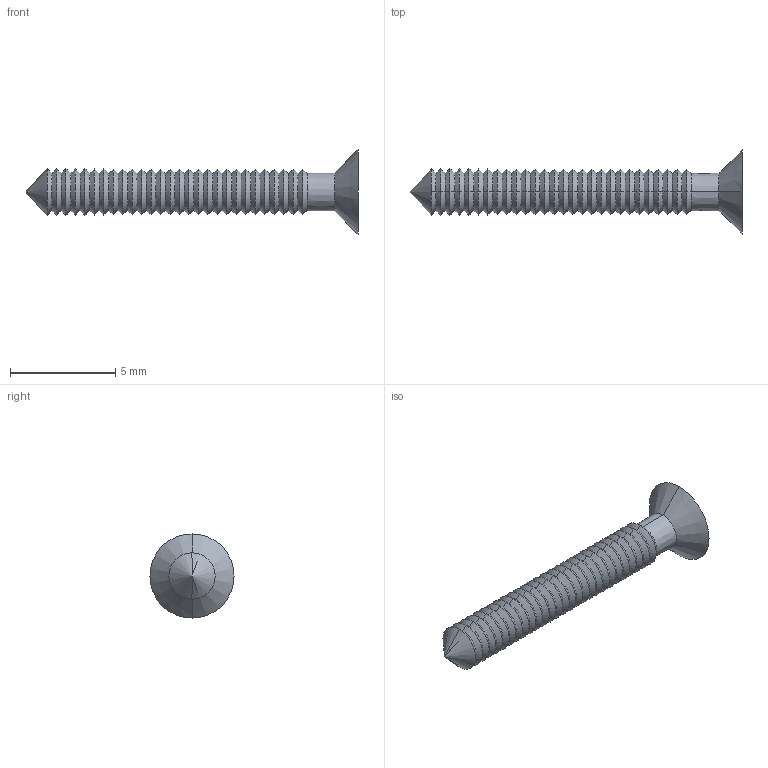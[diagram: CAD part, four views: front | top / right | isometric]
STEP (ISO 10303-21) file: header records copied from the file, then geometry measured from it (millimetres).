
FILE_DESCRIPTION (( 'STEP AP214' ), '1' );
FILE_NAME ('Cargol 2,2x15,78 PP5.STEP', '2016-12-28T20:56:36', ( 'aaa' ), ( '' ), 'SwSTEP 2.0', 'SolidWorks 2013', '' );
FILE_SCHEMA (( 'AUTOMOTIVE_DESIGN' ));
Length unit declared in the file: millimetre
Products named in the file (1): Cargol 2,2x15,78 PP5
Bounding box: 15.78 x 4 x 4 mm (x, y, z)
Volume: 49.6 mm3; surface area: 145.6 mm2
Topology: 1 solids, 1 shells, 130 faces, 270 edges, 141 vertices
Faces by surface type: cone 116, plane 14
Entity records: 3358 total; most frequent: DIRECTION 646, CARTESIAN_POINT 540, ORIENTED_EDGE 536, EDGE_CURVE 268, AXIS2_PLACEMENT_3D 247, VECTOR 152, LINE 152, VERTEX_POINT 141
